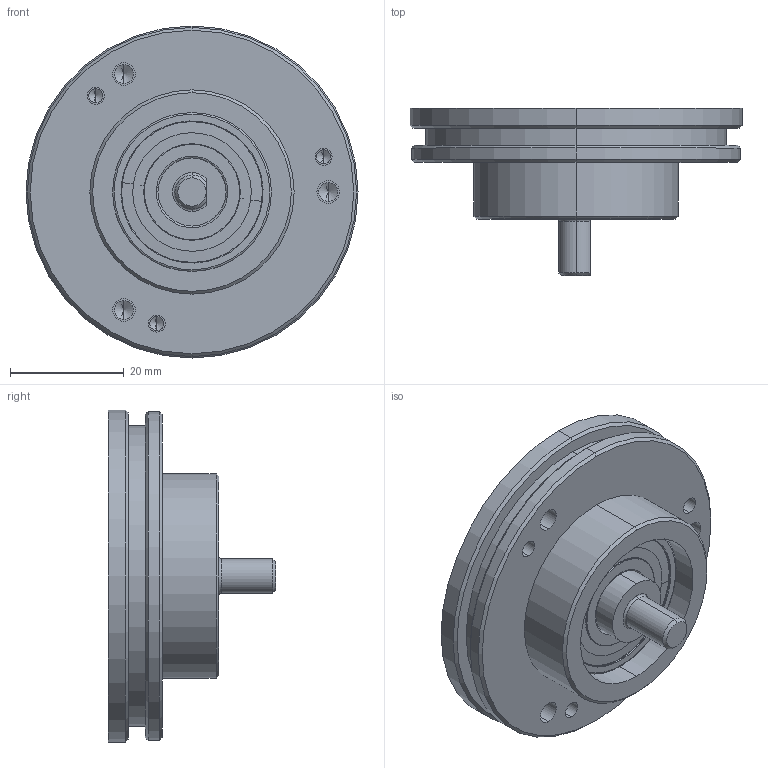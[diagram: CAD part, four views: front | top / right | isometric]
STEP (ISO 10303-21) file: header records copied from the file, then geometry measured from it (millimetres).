
FILE_DESCRIPTION (( 'STEP AP214' ), '1' );
FILE_NAME ('OCD-C060-C5Y-N.STEP', '2013-02-26T09:36:50', ( '' ), ( '' ), 'SwSTEP 2.0', 'SolidWorks 2006104', '' );
FILE_SCHEMA (( 'AUTOMOTIVE_DESIGN' ));
Length unit declared in the file: millimetre
Products named in the file (1): OCD-C060-C5Y-N
Bounding box: 58.5 x 29.5 x 58.5 mm (x, y, z)
Volume: 28329.6 mm3; surface area: 15428.6 mm2
Topology: 4 solids, 10 shells, 189 faces, 395 edges, 224 vertices
Faces by surface type: cylinder 73, torus 43, cone 43, plane 30
Entity records: 7047 total; most frequent: DIRECTION 1001, CARTESIAN_POINT 813, ORIENTED_EDGE 746, AXIS2_PLACEMENT_3D 442, EDGE_CURVE 373, CIRCLE 252, VERTEX_POINT 224, EDGE_LOOP 217
